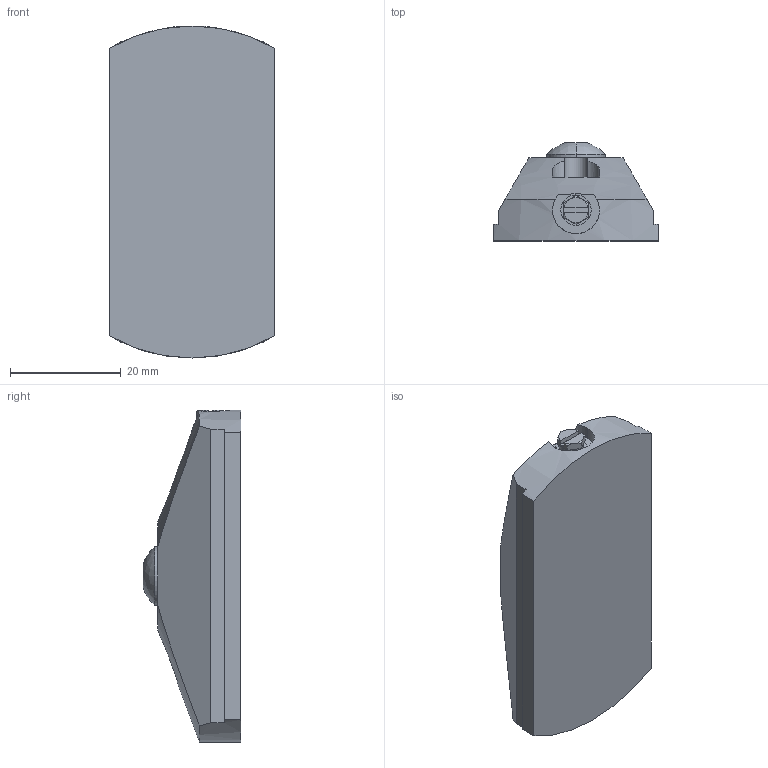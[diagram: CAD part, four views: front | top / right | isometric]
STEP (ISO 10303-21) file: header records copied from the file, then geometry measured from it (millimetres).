
FILE_DESCRIPTION (( 'STEP AP203' ), '1' );
FILE_NAME ('0004483 EZ-0075 30x60.STEP', '2022-01-19T13:45:35', ( '' ), ( '' ), 'SwSTEP 2.0', 'SolidWorks 2021', '' );
FILE_SCHEMA (( 'CONFIG_CONTROL_DESIGN' ));
Length unit declared in the file: millimetre
Products named in the file (1): 0004483 EZ-0075 30x60
Bounding box: 30 x 17.71 x 60 mm (x, y, z)
Volume: 18301.3 mm3; surface area: 5515.4 mm2
Topology: 3 solids, 3 shells, 129 faces, 306 edges, 187 vertices
Faces by surface type: plane 55, cylinder 43, cone 25, bspline 4, sphere 2
Entity records: 3916 total; most frequent: CARTESIAN_POINT 913, DIRECTION 625, ORIENTED_EDGE 596, EDGE_CURVE 298, AXIS2_PLACEMENT_3D 243, VERTEX_POINT 187, EDGE_LOOP 141, VECTOR 139
